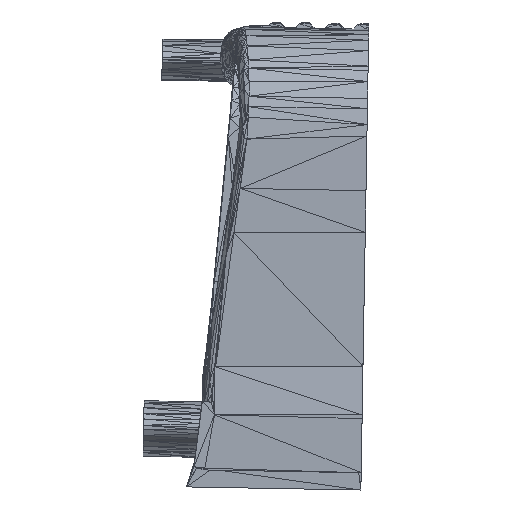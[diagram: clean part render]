
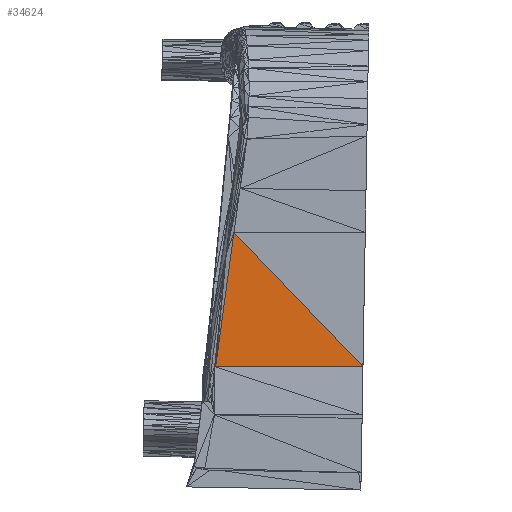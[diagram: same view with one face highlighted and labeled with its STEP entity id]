
A CAD part, left-side view. The second image highlights one B-rep face of the part: STEP entity #34624.
In plain terms, the highlighted planar face has unit normal (-1, 0, 0).
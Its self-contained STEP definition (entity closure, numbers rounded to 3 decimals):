
#5504 = VERTEX_POINT('',#5505);
#5505 = CARTESIAN_POINT('',(37.292,62.821,
    43.751));
#20263 = VERTEX_POINT('',#20264);
#20264 = CARTESIAN_POINT('',(37.292,54.34,
    43.751));
#20273 = VERTEX_POINT('',#20274);
#20274 = CARTESIAN_POINT('',(37.292,61.772,
    51.481));
#20280 = EDGE_CURVE('',#20273,#20263,#20281,.T.);
#20281 = LINE('',#20282,#20283);
#20282 = CARTESIAN_POINT('',(37.292,61.772,
    51.481));
#20283 = VECTOR('',#20284,1.);
#20284 = DIRECTION('',(0.,-0.693,-0.721));
#22604 = EDGE_CURVE('',#20263,#5504,#22605,.T.);
#22605 = LINE('',#22606,#22607);
#22606 = CARTESIAN_POINT('',(37.292,54.34,
    43.751));
#22607 = VECTOR('',#22608,1.);
#22608 = DIRECTION('',(0.,1.,0.));
#34624 = ADVANCED_FACE('',(#34625),#34635,.T.);
#34625 = FACE_BOUND('',#34626,.T.);
#34626 = EDGE_LOOP('',(#34627,#34633,#34634));
#34627 = ORIENTED_EDGE('',*,*,#34628,.T.);
#34628 = EDGE_CURVE('',#20273,#5504,#34629,.T.);
#34629 = LINE('',#34630,#34631);
#34630 = CARTESIAN_POINT('',(37.292,61.772,
    51.481));
#34631 = VECTOR('',#34632,1.);
#34632 = DIRECTION('',(0.,0.134,-0.991));
#34633 = ORIENTED_EDGE('',*,*,#22604,.F.);
#34634 = ORIENTED_EDGE('',*,*,#20280,.F.);
#34635 = PLANE('',#34636);
#34636 = AXIS2_PLACEMENT_3D('',#34637,#34638,#34639);
#34637 = CARTESIAN_POINT('',(37.292,59.446,
    46.402));
#34638 = DIRECTION('',(-1.,-0.,-0.));
#34639 = DIRECTION('',(0.,0.,-1.));
